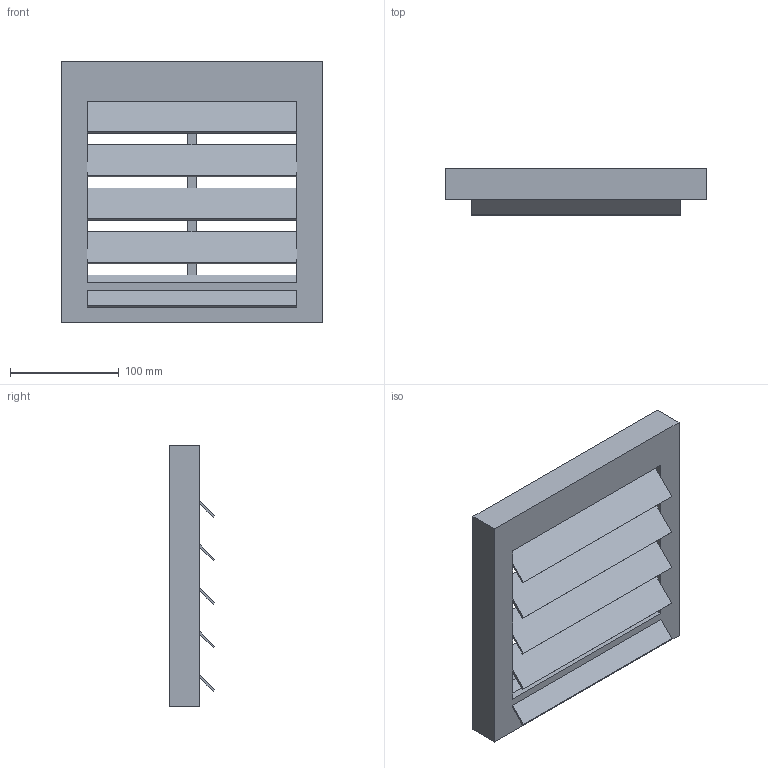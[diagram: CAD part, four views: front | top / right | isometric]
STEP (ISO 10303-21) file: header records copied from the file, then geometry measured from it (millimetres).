
FILE_DESCRIPTION(/* description */ (''),/* implementation_level */ '2;1');
FILE_NAME(/* name */ 'Z:\Output\RVK_200-00766-001.stp',/* time_stamp */ '2017-09-29T10:20:41+02:00',/* author */ ('pareshmistry'),/* organization */ (''),/* preprocessor_version */ 'ST-DEVELOPER v16.5',/* originating_system */ 'Autodesk Inventor 2017',/* authorisation */ '');
FILE_SCHEMA (('AUTOMOTIVE_DESIGN { 1 0 10303 214 3 1 1 }'));
Length unit declared in the file: millimetre
Products named in the file (1): VK-1
Bounding box: 240 x 42.28 x 240 mm (x, y, z)
Volume: 800873.9 mm3; surface area: 181345.4 mm2
Topology: 1 solids, 1 shells, 81 faces, 257 edges, 156 vertices
Faces by surface type: plane 73, cylinder 8
Full cylindrical faces by diameter (mm): 8 x4
Entity records: 2815 total; most frequent: ORIENTED_EDGE 510, CARTESIAN_POINT 487, DIRECTION 447, EDGE_CURVE 251, LINE 219, VECTOR 219, VERTEX_POINT 154, AXIS2_PLACEMENT_3D 114
